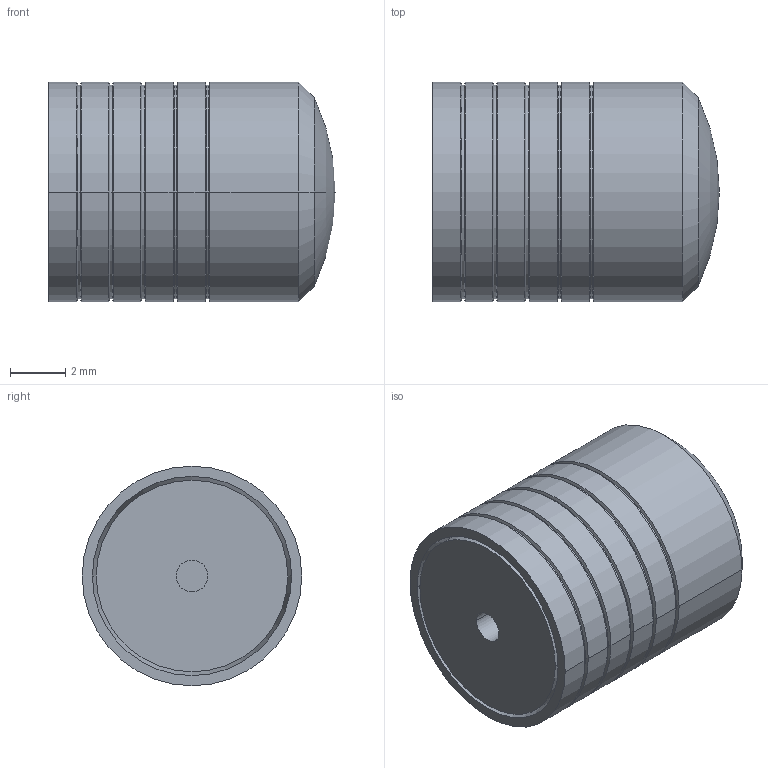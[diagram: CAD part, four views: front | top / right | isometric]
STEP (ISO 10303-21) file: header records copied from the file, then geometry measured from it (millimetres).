
FILE_DESCRIPTION(('CoCreate Modeling STEP Export'),'2;1');
FILE_NAME('PLHA3121241A.stp','2012-01-10T14:23:09',(''),(''),'CoCreate Modeling STEP processor for AP214 (Solid Model)','CoCreate Modeling 17.0 01-Apr-2010 (C) Parametric Technology GmbH','');
FILE_SCHEMA(('AUTOMOTIVE_DESIGN { 1 0 10303 214 1 1 1 1 }'));
Length unit declared in the file: millimetre
Products named in the file (1): PLHA3121241A
Bounding box: 10.34 x 7.92 x 7.92 mm (x, y, z)
Volume: 472 mm3; surface area: 391.9 mm2
Topology: 1 solids, 1 shells, 55 faces, 115 edges, 62 vertices
Faces by surface type: cylinder 26, cone 24, plane 3, sphere 2
Entity records: 1224 total; most frequent: ORIENTED_EDGE 226, CARTESIAN_POINT 171, DIRECTION 168, EDGE_CURVE 113, VERTEX_POINT 62, AXIS2_PLACEMENT_3D 59, EDGE_LOOP 57, FACE_OUTER_BOUND 55
